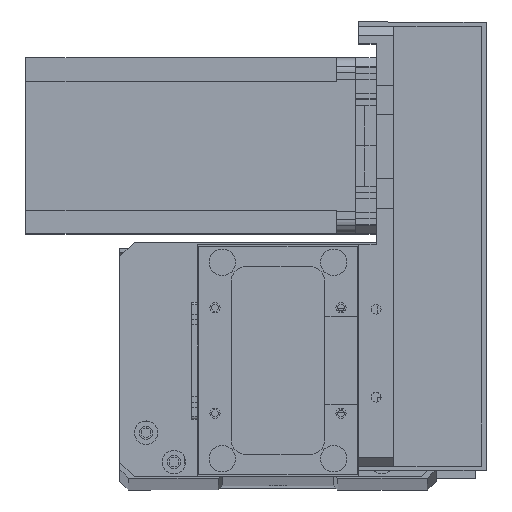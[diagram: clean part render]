
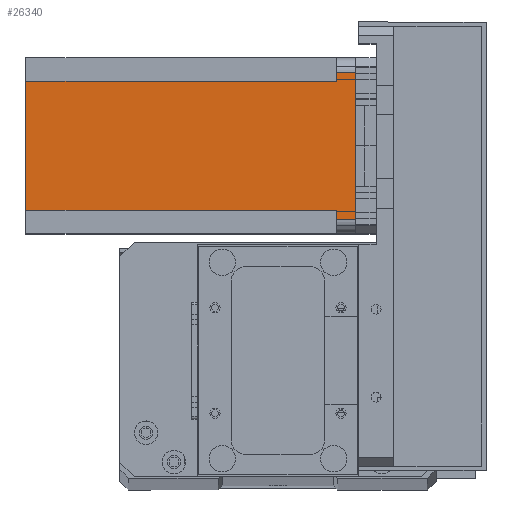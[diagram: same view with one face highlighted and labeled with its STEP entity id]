
A CAD part, top view. The second image highlights one B-rep face of the part: STEP entity #26340.
In plain terms, the highlighted planar face has unit normal (0, 0, 1) as drawn and (0, 1, 0) by its records, which use the part's own axes.
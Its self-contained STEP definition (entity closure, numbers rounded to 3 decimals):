
#795 = VECTOR ( 'NONE', #31716, 1000. ) ;
#813 = EDGE_CURVE ( 'NONE', #4014, #21030, #15688, .T. ) ;
#1088 = CARTESIAN_POINT ( 'NONE',  ( 55., 60., -112.5 ) ) ;
#1187 = LINE ( 'NONE', #6998, #27877 ) ;
#2200 = EDGE_CURVE ( 'NONE', #4014, #30755, #30908, .T. ) ;
#2743 = LINE ( 'NONE', #15018, #8855 ) ;
#2969 = CARTESIAN_POINT ( 'NONE',  ( 5., 60., -6.5 ) ) ;
#3197 = ORIENTED_EDGE ( 'NONE', *, *, #2200, .F. ) ;
#4014 = VERTEX_POINT ( 'NONE', #20584 ) ;
#4702 = DIRECTION ( 'NONE',  ( 0., 0., 1. ) ) ;
#4915 = PLANE ( 'NONE',  #31168 ) ;
#5185 = ORIENTED_EDGE ( 'NONE', *, *, #21828, .T. ) ;
#6203 = CARTESIAN_POINT ( 'NONE',  ( 8., 60., -112.5 ) ) ;
#6998 = CARTESIAN_POINT ( 'NONE',  ( 5., 60., -112.5 ) ) ;
#7200 = CARTESIAN_POINT ( 'NONE',  ( 8., 60., -6.5 ) ) ;
#7473 = ORIENTED_EDGE ( 'NONE', *, *, #813, .T. ) ;
#7542 = DIRECTION ( 'NONE',  ( 0., 0., 1. ) ) ;
#7648 = ORIENTED_EDGE ( 'NONE', *, *, #13522, .T. ) ;
#8014 = VECTOR ( 'NONE', #21814, 1000. ) ;
#8377 = VECTOR ( 'NONE', #27857, 1000. ) ;
#8658 = EDGE_CURVE ( 'NONE', #21194, #25296, #23340, .T. ) ;
#8684 = FACE_OUTER_BOUND ( 'NONE', #19389, .T. ) ;
#8855 = VECTOR ( 'NONE', #4702, 1000. ) ;
#9181 = LINE ( 'NONE', #7200, #8377 ) ;
#10724 = VECTOR ( 'NONE', #28917, 1000. ) ;
#10775 = ORIENTED_EDGE ( 'NONE', *, *, #24652, .F. ) ;
#11274 = CARTESIAN_POINT ( 'NONE',  ( 8., 60., -112.5 ) ) ;
#11971 = VERTEX_POINT ( 'NONE', #18119 ) ;
#12289 = CARTESIAN_POINT ( 'NONE',  ( 52., 60., -112.5 ) ) ;
#13522 = EDGE_CURVE ( 'NONE', #28342, #30755, #1187, .T. ) ;
#15018 = CARTESIAN_POINT ( 'NONE',  ( 52., 60., -112.5 ) ) ;
#15688 = LINE ( 'NONE', #1088, #16497 ) ;
#16285 = EDGE_CURVE ( 'NONE', #21194, #28342, #9181, .T. ) ;
#16299 = CARTESIAN_POINT ( 'NONE',  ( 52., 60., -6.5 ) ) ;
#16497 = VECTOR ( 'NONE', #19079, 1000. ) ;
#18119 = CARTESIAN_POINT ( 'NONE',  ( 52., 60., -6.5 ) ) ;
#18381 = LINE ( 'NONE', #26327, #10724 ) ;
#19079 = DIRECTION ( 'NONE',  ( 0., 0., -1. ) ) ;
#19389 = EDGE_LOOP ( 'NONE', ( #3197, #7473, #10775, #24670, #5185, #27462, #22010, #7648 ) ) ;
#20584 = CARTESIAN_POINT ( 'NONE',  ( 55., 60., 0. ) ) ;
#21030 = VERTEX_POINT ( 'NONE', #30773 ) ;
#21194 = VERTEX_POINT ( 'NONE', #23881 ) ;
#21358 = DIRECTION ( 'NONE',  ( -1., 0., 0. ) ) ;
#21814 = DIRECTION ( 'NONE',  ( 0., 0., -1. ) ) ;
#21828 = EDGE_CURVE ( 'NONE', #31854, #25296, #18381, .T. ) ;
#22010 = ORIENTED_EDGE ( 'NONE', *, *, #16285, .T. ) ;
#22998 = DIRECTION ( 'NONE',  ( 0., 1., 0. ) ) ;
#23340 = LINE ( 'NONE', #6203, #8014 ) ;
#23881 = CARTESIAN_POINT ( 'NONE',  ( 8., 60., -6.5 ) ) ;
#24050 = VECTOR ( 'NONE', #21358, 1000. ) ;
#24652 = EDGE_CURVE ( 'NONE', #11971, #21030, #28274, .T. ) ;
#24670 = ORIENTED_EDGE ( 'NONE', *, *, #29744, .F. ) ;
#25060 = DIRECTION ( 'NONE',  ( 0., 0., 1. ) ) ;
#25296 = VERTEX_POINT ( 'NONE', #11274 ) ;
#26327 = CARTESIAN_POINT ( 'NONE',  ( 0., 60., -112.5 ) ) ;
#26340 = ADVANCED_FACE ( 'NONE', ( #8684 ), #4915, .T. ) ;
#26865 = CARTESIAN_POINT ( 'NONE',  ( 5., 60., 0. ) ) ;
#27462 = ORIENTED_EDGE ( 'NONE', *, *, #8658, .F. ) ;
#27857 = DIRECTION ( 'NONE',  ( -1., 0., 0. ) ) ;
#27877 = VECTOR ( 'NONE', #25060, 1000. ) ;
#28274 = LINE ( 'NONE', #16299, #795 ) ;
#28342 = VERTEX_POINT ( 'NONE', #2969 ) ;
#28917 = DIRECTION ( 'NONE',  ( -1., 0., 0. ) ) ;
#29744 = EDGE_CURVE ( 'NONE', #31854, #11971, #2743, .T. ) ;
#30755 = VERTEX_POINT ( 'NONE', #26865 ) ;
#30773 = CARTESIAN_POINT ( 'NONE',  ( 55., 60., -6.5 ) ) ;
#30908 = LINE ( 'NONE', #31595, #24050 ) ;
#31168 = AXIS2_PLACEMENT_3D ( 'NONE', #33254, #22998, #7542 ) ;
#31595 = CARTESIAN_POINT ( 'NONE',  ( 0., 60., 0. ) ) ;
#31716 = DIRECTION ( 'NONE',  ( 1., 0., 0. ) ) ;
#31854 = VERTEX_POINT ( 'NONE', #12289 ) ;
#33254 = CARTESIAN_POINT ( 'NONE',  ( 0., 60., -112.5 ) ) ;
